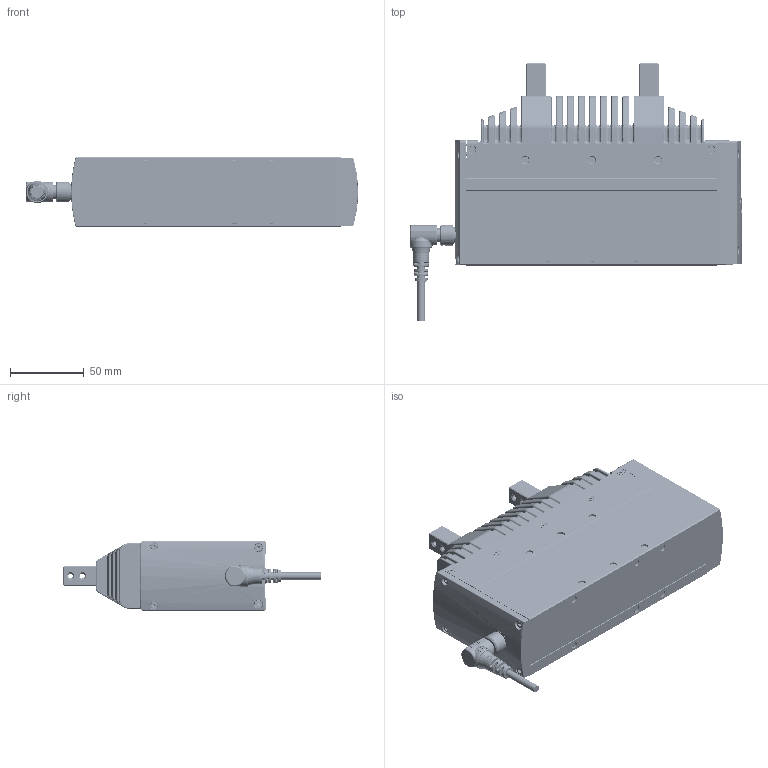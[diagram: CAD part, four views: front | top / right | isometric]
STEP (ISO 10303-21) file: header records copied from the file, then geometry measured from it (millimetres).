
FILE_DESCRIPTION(/* description */ ('STEP AP203'),/* implementation_level */ '2;1');
FILE_NAME(/* name */ 'D:\2025.02.25 帶電匯整給泊舟\3. CHS2系列\4.3D組立\2C-S68\CHS2C-S68-WW.stp',/* time_stamp */ '2025-02-25T18:33:55+08:00',/* author */ ('T10033'),/* organization */ (''),/* preprocessor_version */ 'ST-DEVELOPER v18.1',/* originating_system */ 'Autodesk Inventor 2020',/* authorisation */ '');
FILE_SCHEMA (('CONFIG_CONTROL_DESIGN'));
Products named in the file (7): CHS2C-S68; M12 -14PIN  板端-第一種規格; 2T6354T34W; 12004-0000000_¹w³]_¾÷¾¹¥[
¤u_; ª¿½¦®M-S68-1.0; 63T6ER_Shrinkwrap_1; M12-14PIN 線端90度接頭-05中繼線
Assembly tree (7 placements, depth 3):
  CHS2C-S68
    M12 -14PIN  板端-第一種規格
    2T6354T34W
      12004-0000000_¹w³]_¾÷¾¹¥[
¤u_  x2
      ª¿½¦®M-S68-1.0
    63T6ER_Shrinkwrap_1
    M12-14PIN 線端90度接頭-05中繼線
Bounding box: 224.77 x 174.45 x 48 mm (x, y, z)
Volume: 747663.9 mm3; surface area: 160148.7 mm2
Topology: 22 solids, 27 shells, 4935 faces, 13057 edges, 8109 vertices
Faces by surface type: plane 1641, cylinder 1419, bspline 831, cone 571, torus 393, sphere 80
Full cylindrical faces by diameter (mm): 0.6 x14, 0.65 x14, 1 x14, 2.5 x146, 3 x10, 3.3 x4, 3.5 x8, 4.5 x6, 4.7 x10, 5 x20, 5.2 x8, 5.5 x2, 8 x1, 8.9 x1, 9.5 x2, 9.6 x1, 10.5 x2, 10.9 x1, 11 x2, 11.2 x1, 11.25 x1, 12 x1, 13 x1, 13.8 x1, 14 x2, 14.4 x1, 17.482 x1
Entity records: 216013 total; most frequent: CARTESIAN_POINT 96245, ORIENTED_EDGE 25076, DIRECTION 24794, EDGE_CURVE 12556, AXIS2_PLACEMENT_3D 9848, VERTEX_POINT 7940, CIRCLE 5393, EDGE_LOOP 5176
